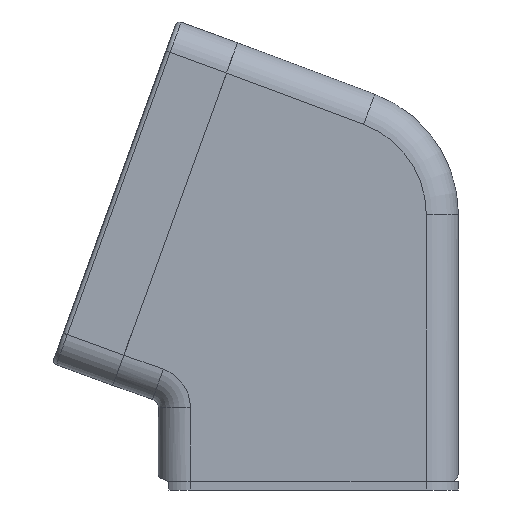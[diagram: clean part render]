
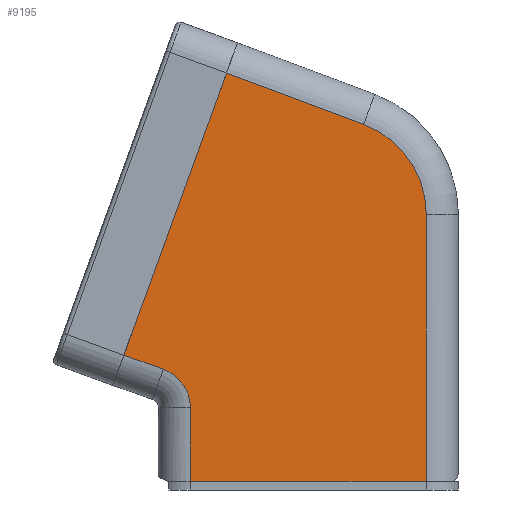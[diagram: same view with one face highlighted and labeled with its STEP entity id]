
A CAD part, left-side view. The second image highlights one B-rep face of the part: STEP entity #9195.
In plain terms, the highlighted planar face has unit normal (-1, 0, 0).
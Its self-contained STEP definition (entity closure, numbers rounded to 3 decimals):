
#1567 = DIRECTION ( 'NONE',  ( 0., -0.342, 0.94 ) ) ;
#1670 = AXIS2_PLACEMENT_3D ( 'NONE', #17446, #4677, #19678 ) ;
#2159 = CARTESIAN_POINT ( 'NONE',  ( -100., 27.5, 1.61 ) ) ;
#2341 = DIRECTION ( 'NONE',  ( 0., 0., 1. ) ) ;
#2887 = CARTESIAN_POINT ( 'NONE',  ( -100., 33.829, 26.179 ) ) ;
#3393 = AXIS2_PLACEMENT_3D ( 'NONE', #16772, #4039, #19017 ) ;
#4039 = DIRECTION ( 'NONE',  ( 1., 0., 0. ) ) ;
#4162 = VERTEX_POINT ( 'NONE', #9365 ) ;
#4189 = VERTEX_POINT ( 'NONE', #26950 ) ;
#4677 = DIRECTION ( 'NONE',  ( -1., 0., 0. ) ) ;
#4763 = CARTESIAN_POINT ( 'NONE',  ( -100., 19.146, 95.237 ) ) ;
#5025 = DIRECTION ( 'NONE',  ( 0., -0.943, -0.334 ) ) ;
#5038 = ORIENTED_EDGE ( 'NONE', *, *, #24157, .T. ) ;
#5729 = ORIENTED_EDGE ( 'NONE', *, *, #24187, .T. ) ;
#5750 = ORIENTED_EDGE ( 'NONE', *, *, #24365, .T. ) ;
#7101 = CARTESIAN_POINT ( 'NONE',  ( -100., -12.88, 83.263 ) ) ;
#7238 = LINE ( 'NONE', #2887, #12867 ) ;
#8061 = VERTEX_POINT ( 'NONE', #17130 ) ;
#8102 = CARTESIAN_POINT ( 'NONE',  ( -100., 43.026, 29.436 ) ) ;
#8248 = VECTOR ( 'NONE', #2341, 1000. ) ;
#8395 = CARTESIAN_POINT ( 'NONE',  ( -100., 34., 1.61 ) ) ;
#8527 = VECTOR ( 'NONE', #1567, 1000. ) ;
#9195 = ADVANCED_FACE ( 'NONE', ( #12291 ), #10470, .T. ) ;
#9204 = LINE ( 'NONE', #16451, #8527 ) ;
#9365 = CARTESIAN_POINT ( 'NONE',  ( -100., 27.5, 17.224 ) ) ;
#10470 = PLANE ( 'NONE',  #26793 ) ;
#10558 = DIRECTION ( 'NONE',  ( 0., 0., 1. ) ) ;
#10935 = LINE ( 'NONE', #2159, #11587 ) ;
#11250 = CIRCLE ( 'NONE', #1670, 22.5 ) ;
#11587 = VECTOR ( 'NONE', #19287, 1000. ) ;
#12291 = FACE_OUTER_BOUND ( 'NONE', #22471, .T. ) ;
#12683 = ORIENTED_EDGE ( 'NONE', *, *, #24234, .T. ) ;
#12702 = VERTEX_POINT ( 'NONE', #7101 ) ;
#12867 = VECTOR ( 'NONE', #5025, 1000. ) ;
#13338 = ORIENTED_EDGE ( 'NONE', *, *, #13361, .F. ) ;
#13361 = EDGE_CURVE ( 'NONE', #22819, #20838, #21011, .T. ) ;
#13527 = VECTOR ( 'NONE', #17629, 1000. ) ;
#15034 = CARTESIAN_POINT ( 'NONE',  ( -100., 27.5, 0. ) ) ;
#15059 = CARTESIAN_POINT ( 'NONE',  ( -100., -27.5, 62.188 ) ) ;
#15067 = VERTEX_POINT ( 'NONE', #8102 ) ;
#15540 = VERTEX_POINT ( 'NONE', #18881 ) ;
#15695 = ORIENTED_EDGE ( 'NONE', *, *, #22127, .F. ) ;
#16451 = CARTESIAN_POINT ( 'NONE',  ( -100., 17.546, 99.443 ) ) ;
#16772 = CARTESIAN_POINT ( 'NONE',  ( -100., 37., 17.224 ) ) ;
#17073 = CARTESIAN_POINT ( 'NONE',  ( -100., -27.5, 0. ) ) ;
#17130 = CARTESIAN_POINT ( 'NONE',  ( -100., 33.829, 26.179 ) ) ;
#17446 = CARTESIAN_POINT ( 'NONE',  ( -100., -5., 62.188 ) ) ;
#17629 = DIRECTION ( 'NONE',  ( 0., 0.937, 0.35 ) ) ;
#18881 = CARTESIAN_POINT ( 'NONE',  ( -100., -27.5, 62.188 ) ) ;
#19017 = DIRECTION ( 'NONE',  ( 0., 0., 1. ) ) ;
#19287 = DIRECTION ( 'NONE',  ( 0., 0., -1. ) ) ;
#19331 = LINE ( 'NONE', #4763, #13527 ) ;
#19678 = DIRECTION ( 'NONE',  ( 0., 0., 1. ) ) ;
#19700 = LINE ( 'NONE', #15059, #8248 ) ;
#20627 = DIRECTION ( 'NONE',  ( 0., 1., 0. ) ) ;
#20838 = VERTEX_POINT ( 'NONE', #15034 ) ;
#21011 = LINE ( 'NONE', #22830, #26858 ) ;
#21222 = ORIENTED_EDGE ( 'NONE', *, *, #24279, .T. ) ;
#21435 = CIRCLE ( 'NONE', #3393, 9.5 ) ;
#22127 = EDGE_CURVE ( 'NONE', #15067, #4189, #9204, .T. ) ;
#22471 = EDGE_LOOP ( 'NONE', ( #26360, #5038, #13338, #5729, #12683, #21222, #15695, #5750 ) ) ;
#22819 = VERTEX_POINT ( 'NONE', #17073 ) ;
#22830 = CARTESIAN_POINT ( 'NONE',  ( -100., 15.5, 0. ) ) ;
#23526 = DIRECTION ( 'NONE',  ( -1., 0., 0. ) ) ;
#24071 = EDGE_CURVE ( 'NONE', #8061, #4162, #21435, .T. ) ;
#24157 = EDGE_CURVE ( 'NONE', #4162, #20838, #10935, .T. ) ;
#24187 = EDGE_CURVE ( 'NONE', #22819, #15540, #19700, .T. ) ;
#24234 = EDGE_CURVE ( 'NONE', #15540, #12702, #11250, .T. ) ;
#24279 = EDGE_CURVE ( 'NONE', #12702, #4189, #19331, .T. ) ;
#24365 = EDGE_CURVE ( 'NONE', #15067, #8061, #7238, .T. ) ;
#26360 = ORIENTED_EDGE ( 'NONE', *, *, #24071, .T. ) ;
#26793 = AXIS2_PLACEMENT_3D ( 'NONE', #8395, #23526, #10558 ) ;
#26858 = VECTOR ( 'NONE', #20627, 1000. ) ;
#26950 = CARTESIAN_POINT ( 'NONE',  ( -100., 19.085, 95.214 ) ) ;
